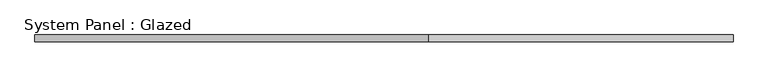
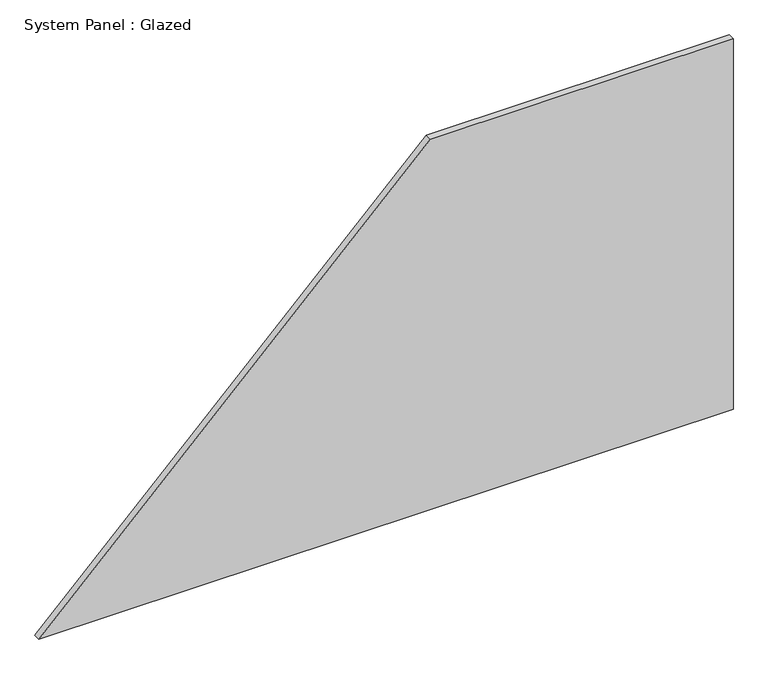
"""IFC4 building model written with IfcOpenShell, lengths in millimetres: plate geometry, System Panel : Glazed."""

from ifc_helpers import new_model, si_unit, frame, origin, place, context, project, spatial, polyline, outline, extrude, source, transform, mapped, element, save


def system_panel_glazed_6cc69700(model_context):
    return source(origin(), model_context, "Body", "SweptSolid", [
        extrude(outline(polyline([(0.0, -1294.9487195), (0.0, 1294.9487195), (1460.5, 1294.9487195), (1460.5, 165.5512805), (0.0, -1294.9487195)])), frame((0.0, 19.05, 0.0), z_axis=(0.0, 1.0, 0.0), x_axis=(0.0, 0.0, 1.0)), (0.0, 0.0, 1.0), 25.4),
    ])


if __name__ == "__main__":
    model = new_model("IFC4")
    model_context = context("Model", 3, world=origin())
    ifc_project = project(units=[si_unit("LENGTHUNIT", "METRE", prefix="MILLI")], contexts=[model_context])
    site = spatial("IfcSite", under=ifc_project)
    building = spatial("IfcBuilding", under=site)
    placement = place(None, origin())
    system_panel_glazed_shape = system_panel_glazed_6cc69700(model_context)
    element("IfcPlate", 1, ObjectType="System Panel : Glazed", at=placement, inside=building, context=model_context, shape_type="MappedRepresentation", body=[
        mapped(system_panel_glazed_shape, transform((0.0, 0.0, 0.0), x_axis=(1.0, 0.0, 0.0), y_axis=(0.0, 1.0, 0.0), z_axis=(0.0, 0.0, 1.0))),
    ])
    save(model, "model.ifc")
